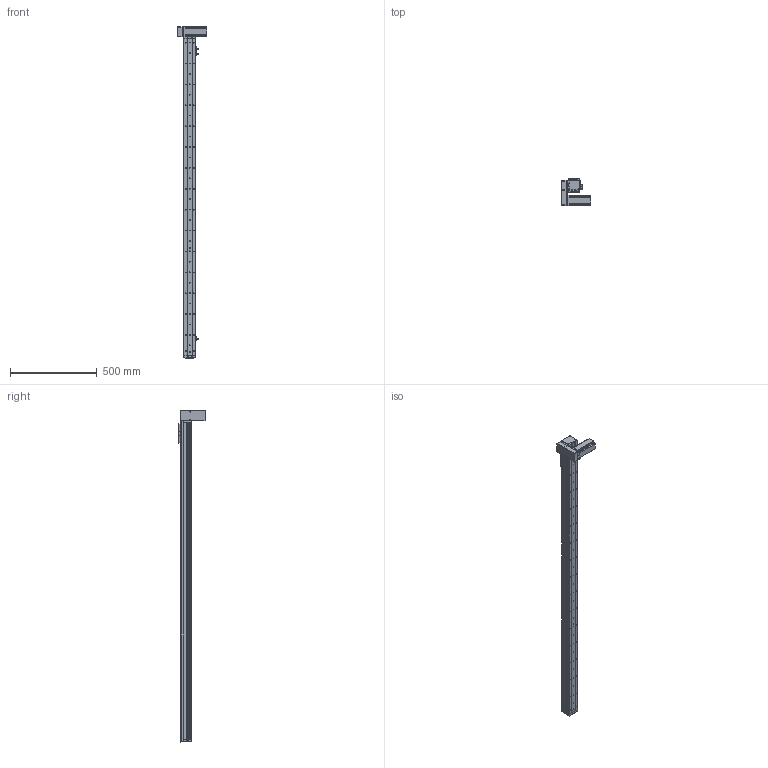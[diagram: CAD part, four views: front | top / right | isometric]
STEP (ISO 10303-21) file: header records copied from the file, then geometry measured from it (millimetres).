
FILE_DESCRIPTION (( 'STEP AP214' ), '1' );
FILE_NAME ('KSD68BS-S1650-MRD-CR.STEP', '2019-11-08T03:50:12', ( '微软用户' ), ( '微软中国' ), 'SwSTEP 2.0', 'SolidWorks 2014', '' );
FILE_SCHEMA (( 'AUTOMOTIVE_DESIGN' ));
Length unit declared in the file: millimetre
Products named in the file (14): KSD68BS-S1650-MRD-CR; 68宽单导轨全封闭丝杆传动安装板1防护罩; KSD68BS 1650行程侧板全封闭; 68宽单导轨全封闭同步带端板; 68遵裔啣揤啣1; 68单导轨全封闭同步带电机座右; KSD68BS 1650行程盖板全封闭; 68单导轨全封闭同步带安装板; 悵誘欶奻狟殏; 68宽马达安装板连板上折同步带; 感应片68宽全封闭; U倰嫖萇EEㄜSX672; 台达ECMA－C20604AS伺服电机（400W); KSD68BS 1650行程底板全封闭
Assembly tree (17 placements, depth 2):
  KSD68BS-S1650-MRD-CR
    KSD68BS 1650行程底板全封闭
    台达ECMA－C20604AS伺服电机（400W)
    U倰嫖萇EEㄜSX672  x3
    感应片68宽全封闭
    68宽马达安装板连板上折同步带
    悵誘欶奻狟殏
    68单导轨全封闭同步带安装板
    68单导轨全封闭同步带电机座右
    68宽单导轨全封闭同步带端板
    KSD68BS 1650行程侧板全封闭  x2
    68宽单导轨全封闭丝杆传动安装板1防护罩
    68遵裔啣揤啣1  x2
    KSD68BS 1650行程盖板全封闭
Bounding box: 167.2 x 155.5 x 1908.1 mm (x, y, z)
Volume: 3412906.3 mm3; surface area: 1385226.4 mm2
Topology: 18 solids, 18 shells, 1620 faces, 4673 edges, 2975 vertices
Faces by surface type: cylinder 797, plane 631, cone 192
Entity records: 52962 total; most frequent: CARTESIAN_POINT 9197, DIRECTION 7885, ORIENTED_EDGE 7542, EDGE_CURVE 3771, AXIS2_PLACEMENT_3D 2877, VERTEX_POINT 2473, VECTOR 2131, LINE 2131
